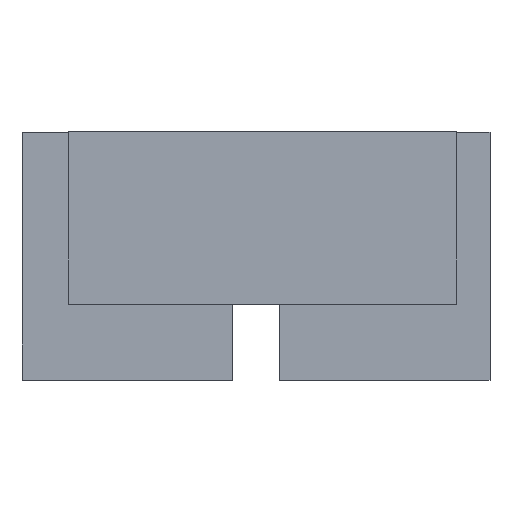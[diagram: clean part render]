
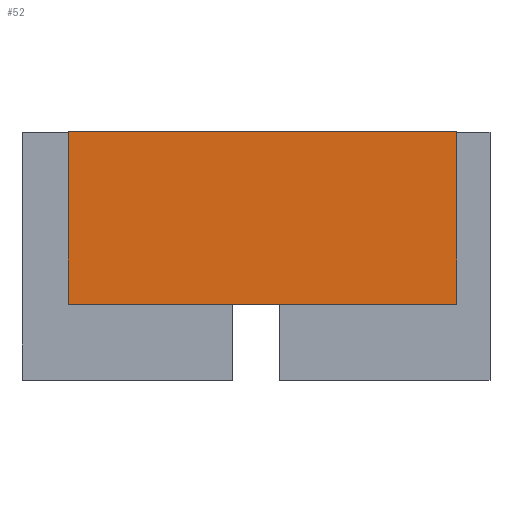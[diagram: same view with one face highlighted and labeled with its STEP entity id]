
A CAD part, top view. The second image highlights one B-rep face of the part: STEP entity #52.
In plain terms, the highlighted planar face has unit normal (0, 0, 1).
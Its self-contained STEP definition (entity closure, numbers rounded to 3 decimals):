
#52=ADVANCED_FACE('',(#82),#398,.T.);
#82=FACE_OUTER_BOUND('',#112,.T.);
#112=EDGE_LOOP('',(#209,#210,#211,#212));
#209=ORIENTED_EDGE('',*,*,#277,.T.);
#210=ORIENTED_EDGE('',*,*,#278,.T.);
#211=ORIENTED_EDGE('',*,*,#279,.F.);
#212=ORIENTED_EDGE('',*,*,#274,.F.);
#274=EDGE_CURVE('',#370,#371,#318,.T.);
#277=EDGE_CURVE('',#370,#373,#321,.T.);
#278=EDGE_CURVE('',#373,#374,#322,.T.);
#279=EDGE_CURVE('',#371,#374,#323,.T.);
#318=B_SPLINE_CURVE_WITH_KNOTS('',1,(#837,#838),.UNSPECIFIED.,.F.,.F.,(2,
2),(0.,15.),.UNSPECIFIED.);
#321=B_SPLINE_CURVE_WITH_KNOTS('',1,(#843,#844),.UNSPECIFIED.,.F.,.F.,(2,
2),(-102.906,-69.128),.UNSPECIFIED.);
#322=B_SPLINE_CURVE_WITH_KNOTS('',1,(#845,#846),.UNSPECIFIED.,.F.,.F.,(2,
2),(0.,15.),.UNSPECIFIED.);
#323=B_SPLINE_CURVE_WITH_KNOTS('',1,(#847,#848),.UNSPECIFIED.,.F.,.F.,(2,
2),(-102.906,-69.128),.UNSPECIFIED.);
#370=VERTEX_POINT('',#828);
#371=VERTEX_POINT('',#829);
#373=VERTEX_POINT('',#831);
#374=VERTEX_POINT('',#832);
#398=PLANE('',#444);
#444=AXIS2_PLACEMENT_3D('',#822,#469,$);
#469=DIRECTION('',(0.,0.,1.));
#822=CARTESIAN_POINT('',(-20.222,98.772,458.939));
#828=CARTESIAN_POINT('',(-20.222,98.772,458.939));
#829=CARTESIAN_POINT('',(-20.222,113.772,458.939));
#831=CARTESIAN_POINT('',(13.557,98.772,458.939));
#832=CARTESIAN_POINT('',(13.557,113.772,458.939));
#837=CARTESIAN_POINT('',(-20.222,98.772,458.939));
#838=CARTESIAN_POINT('',(-20.222,113.772,458.939));
#843=CARTESIAN_POINT('',(-20.222,98.772,458.939));
#844=CARTESIAN_POINT('',(13.557,98.772,458.939));
#845=CARTESIAN_POINT('',(13.557,98.772,458.939));
#846=CARTESIAN_POINT('',(13.557,113.772,458.939));
#847=CARTESIAN_POINT('',(-20.222,113.772,458.939));
#848=CARTESIAN_POINT('',(13.557,113.772,458.939));
